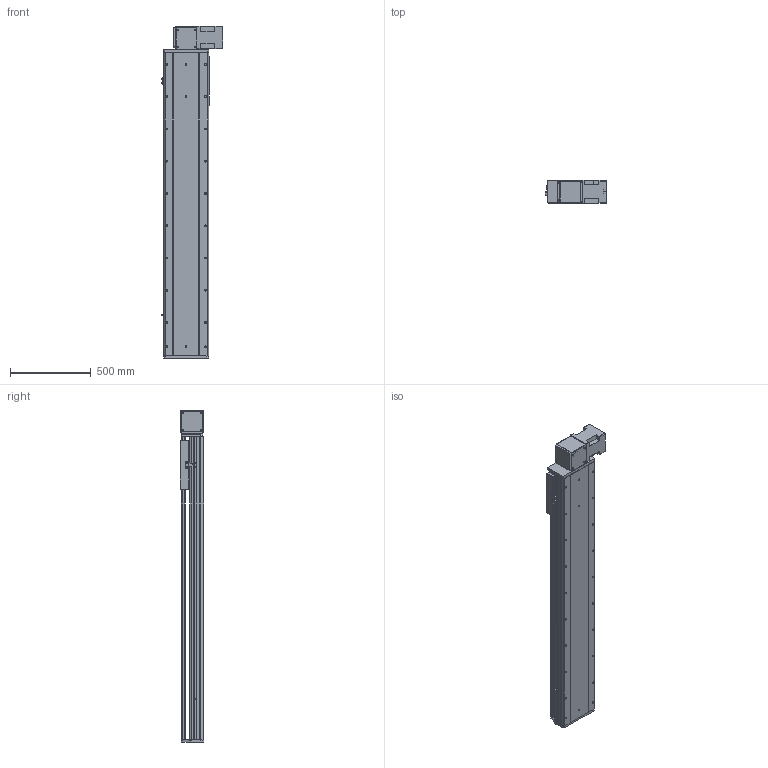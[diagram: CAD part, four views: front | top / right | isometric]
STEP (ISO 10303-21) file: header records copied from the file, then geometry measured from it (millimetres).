
FILE_DESCRIPTION (( 'STEP AP214' ), '1' );
FILE_NAME ('RTB28S-XX-1450-BL-M100-XX-C4.STEP', '2025-12-22T02:23:08', ( '' ), ( '' ), 'SwSTEP 2.0', 'SolidWorks 2018', '' );
FILE_SCHEMA (( 'AUTOMOTIVE_DESIGN' ));
Length unit declared in the file: millimetre
Products named in the file (4): RTB28S-GY-004^RTB28S-XX-XX-BL-M100-XX-C4; RTB28S-GY-011^RTB28S-XX-XX-BL-M100-XX-C4; RTB28S-GY-008^RTB28S-XX-XX-BL-M100-XX-C4; RTB28S-XX-1450-BL-M100-XX-C4
Assembly tree (3 placements, depth 2):
  RTB28S-XX-1450-BL-M100-XX-C4
    RTB28S-GY-011^RTB28S-XX-XX-BL-M100-XX-C4
    RTB28S-GY-004^RTB28S-XX-XX-BL-M100-XX-C4
    RTB28S-GY-008^RTB28S-XX-XX-BL-M100-XX-C4
Bounding box: 380.7 x 145 x 2057 mm (x, y, z)
Volume: 36702355.1 mm3; surface area: 3500543.3 mm2
Topology: 3 solids, 4 shells, 808 faces, 2148 edges, 1368 vertices
Faces by surface type: cylinder 375, plane 349, cone 80, torus 4
Entity records: 30485 total; most frequent: CARTESIAN_POINT 5302, DIRECTION 4554, ORIENTED_EDGE 4232, EDGE_CURVE 2116, AXIS2_PLACEMENT_3D 1652, VERTEX_POINT 1368, LINE 1250, VECTOR 1250
